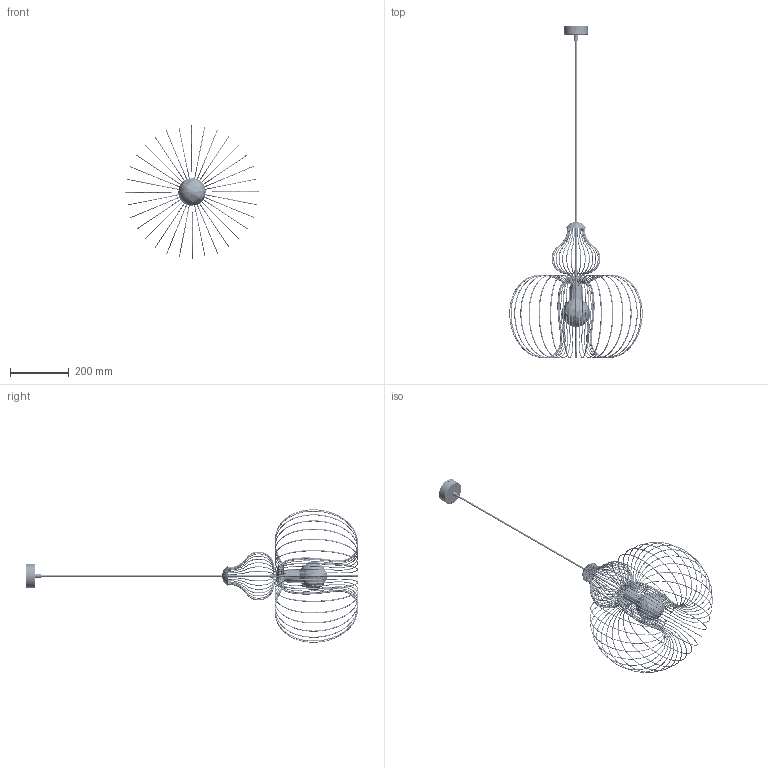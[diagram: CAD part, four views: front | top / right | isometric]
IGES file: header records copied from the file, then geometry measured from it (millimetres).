
Start section: SolidWorks IGES file using NURBS representation for surfaces
Global section: file name: Z:\Modele 3D_WWW\_KOLEKCJE_WWW\MEKNES-5297-5298\MEKNES-5297-5298.IGS; native system: SolidWorks 2021; preprocessor: SolidWorks 2021; author: gabriela.tworek; date: 210920.115656; units: millimetre
Bounding box: 455.79 x 1134.36 x 455.79 mm (x, y, z)
Surface area: 465222.5 mm2 (no closed solid volume)
Topology: 0 solids, 0 shells, 1156 faces, 12436 edges, 12426 vertices
Faces by surface type: bspline 1156
